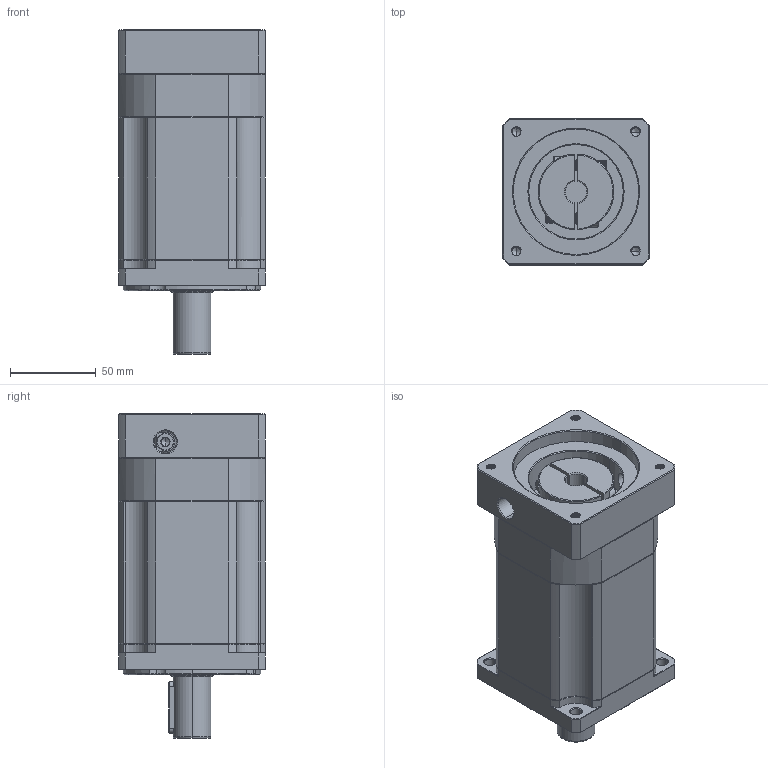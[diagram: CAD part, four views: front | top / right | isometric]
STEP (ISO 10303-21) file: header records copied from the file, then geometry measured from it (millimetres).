
FILE_DESCRIPTION (( 'STEP AP214' ), '1' );
FILE_NAME ('ZB90-D22-L3-12.7-73-69.5X69.5-M6.STEP', '2022-05-02T15:32:26', ( '' ), ( 'Microsoft' ), 'SwSTEP 2.0', 'SolidWorks 2016', '' );
FILE_SCHEMA (( 'AUTOMOTIVE_DESIGN' ));
Length unit declared in the file: millimetre
Products named in the file (1): ZB90-D22-L3-12.7-73-69.5X69.5-M6
Bounding box: 85 x 85 x 189 mm (x, y, z)
Volume: 914954.5 mm3; surface area: 101529.8 mm2
Topology: 4 solids, 5 shells, 1939 faces, 5064 edges, 3205 vertices
Faces by surface type: plane 882, cylinder 396, cone 335, bspline 299, torus 27
Entity records: 104653 total; most frequent: CARTESIAN_POINT 38398, ORIENTED_EDGE 10084, DIRECTION 8192, EDGE_CURVE 5042, VERTEX_POINT 3205, LINE 3102, VECTOR 3102, AXIS2_PLACEMENT_3D 2545
